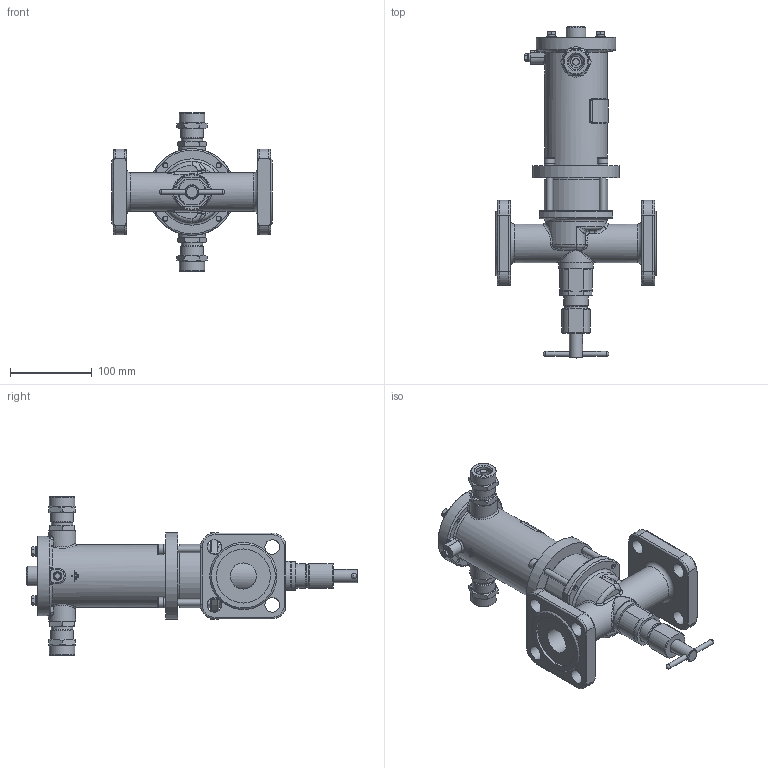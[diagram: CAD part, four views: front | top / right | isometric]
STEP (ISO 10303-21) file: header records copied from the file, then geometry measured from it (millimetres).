
FILE_DESCRIPTION(('STEP AP203'), '1');
FILE_NAME('ÑÅÍÑ DN32PN25-Â-ÍÎ-ÑÂ.stp', '2018-09-19T08:52:23', ('Îðëîâ Å.Â.'), ('ÎÎÎ ÍÏÏ Ñåíñîð'), 'ASCON STEP Converter 1.3', 'Kompas 3D', '');
FILE_SCHEMA(('CONFIG_CONTROL_DESIGN','SUPPORT_RESOURCE_SCHEMA'));
Length unit declared in the file: millimetre
Products named in the file (1): 86
Bounding box: 196 x 405.5 x 194 mm (x, y, z)
Volume: 1195188.4 mm3; surface area: 337544.1 mm2
Topology: 3 solids, 19 shells, 1984 faces, 5245 edges, 3399 vertices
Faces by surface type: cylinder 1012, plane 723, cone 129, torus 52, bspline 50, extrusion 16, sphere 2
Full cylindrical faces by diameter (mm): 3.5 x2, 4.134 x1, 4.917 x4, 5 x1, 6 x13, 6.2 x1, 6.3 x4, 6.5 x4, 8 x8, 9 x4, 10 x1, 12 x4, 13 x6, 16 x3, 17 x2, 18 x9, 18.632 x2, 19.9 x1, 20 x2, 21 x1, 22 x2, 22.376 x2, 23 x1, 23.5 x2, 24 x3, 24.5 x2, 26 x4, 26.376 x2, 27.8 x1, 28 x3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
Entity records: 76139 total; most frequent: CARTESIAN_POINT 25980, DIRECTION 10857, ORIENTED_EDGE 10416, EDGE_CURVE 5208, AXIS2_PLACEMENT_3D 4175, VERTEX_POINT 3391, VECTOR 2507, LINE 2491
